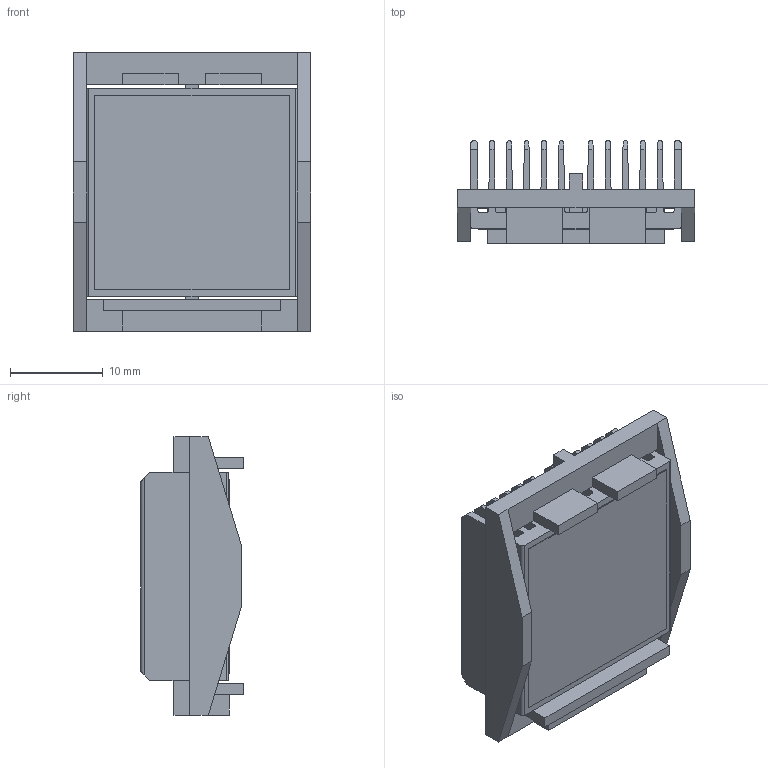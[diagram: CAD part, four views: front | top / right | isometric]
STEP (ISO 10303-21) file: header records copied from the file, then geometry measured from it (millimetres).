
FILE_DESCRIPTION (( 'STEP AP214' ), '1' );
FILE_NAME ('INL23001-10-1.7BU.STEP', '2023-02-21T17:21:09', ( '' ), ( '' ), 'SwSTEP 2.0', 'SolidWorks 2020', '' );
FILE_SCHEMA (( 'AUTOMOTIVE_DESIGN' ));
Length unit declared in the file: millimetre
Products named in the file (1): INL23001-10-1.7BU
Bounding box: 25.7 x 11.1 x 30.1 mm (x, y, z)
Volume: 3248.5 mm3; surface area: 7843.6 mm2
Topology: 3 solids, 3 shells, 152 faces, 440 edges, 292 vertices
Faces by surface type: plane 116, cylinder 36
Entity records: 6668 total; most frequent: CARTESIAN_POINT 957, ORIENTED_EDGE 880, DIRECTION 770, EDGE_CURVE 440, LINE 368, VECTOR 368, VERTEX_POINT 292, AXIS2_PLACEMENT_3D 201
